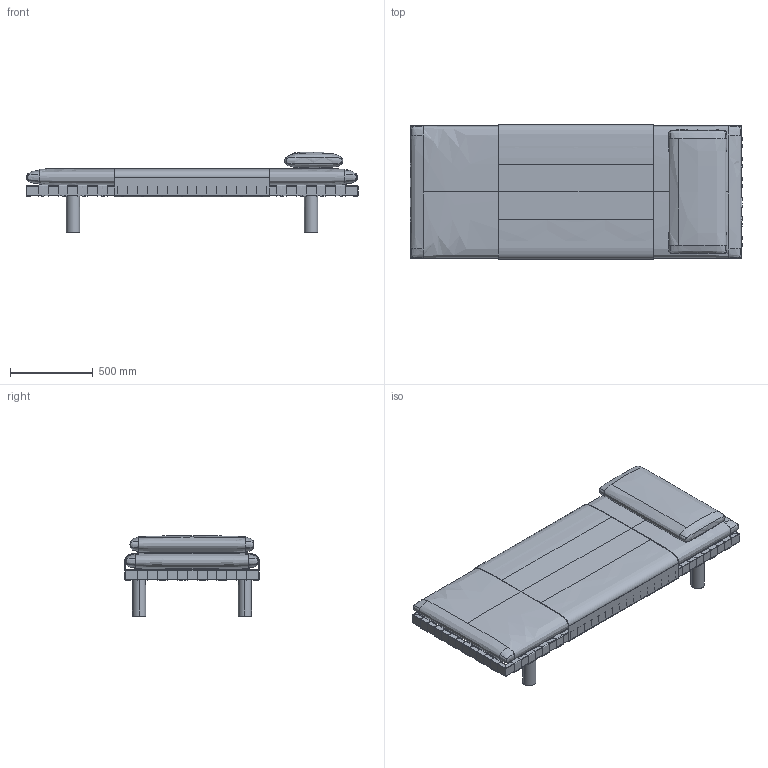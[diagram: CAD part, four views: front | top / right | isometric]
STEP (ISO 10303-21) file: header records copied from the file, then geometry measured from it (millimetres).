
FILE_DESCRIPTION(/* description */ (''),/* implementation_level */ '2;1');
FILE_NAME(/* name */ 'Pulpo_Pallet_studioSebastianHerkner',/* time_stamp */ '2022-09-29T10:44:09+02:00',/* author */ (''),/* organization */ (''),/* preprocessor_version */ 'ST-DEVELOPER v16.5',/* originating_system */ '',/* authorisation */ '');
FILE_SCHEMA (('AUTOMOTIVE_DESIGN'));
Length unit declared in the file: millimetre
Products named in the file (1): Document
Bounding box: 2008 x 812 x 484.19 mm (x, y, z)
Volume: 191069597.8 mm3; surface area: 11509042 mm2
Topology: 35 solids, 35 shells, 324 faces, 694 edges, 440 vertices
Faces by surface type: bspline 190, plane 134
Entity records: 20804 total; most frequent: CARTESIAN_POINT 16190, ORIENTED_EDGE 1388, EDGE_CURVE 694, VERTEX_POINT 440, B_SPLINE_CURVE_WITH_KNOTS 382, ADVANCED_FACE 324, FACE_OUTER_BOUND 324, EDGE_LOOP 324
